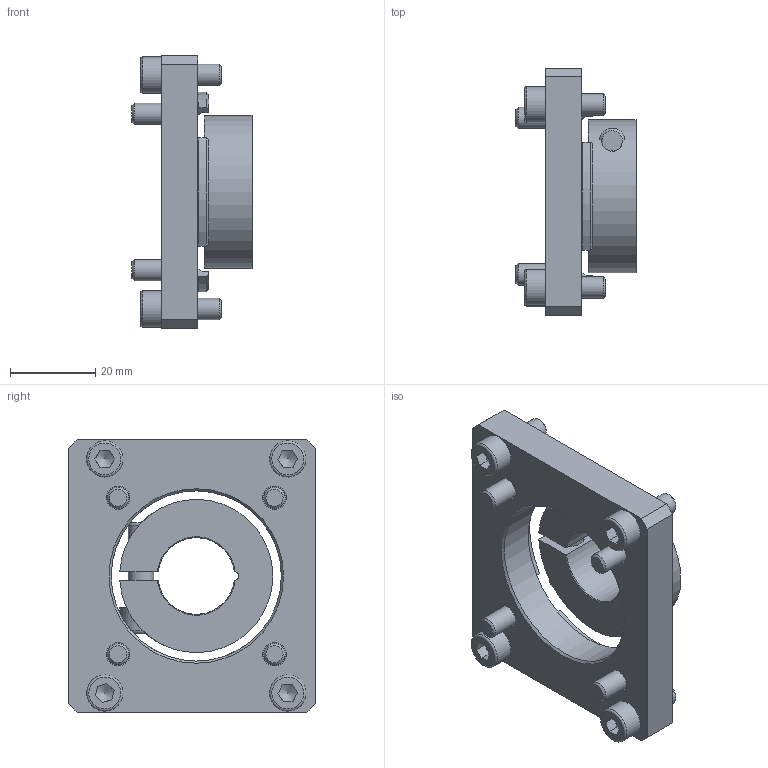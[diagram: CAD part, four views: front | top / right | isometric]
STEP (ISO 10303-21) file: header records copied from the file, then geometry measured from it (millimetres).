
FILE_DESCRIPTION(/* description */ ('Flange set PE3 / PLE060'),/* implementation_level */ '2;1');
FILE_NAME(/* name */ 'D:\InventorWorkspace2017\CAD\Projekte_EDEM\HLR\Zubehörteile\0242.037.stp',/* time_stamp */ '2019-02-13T11:57:35+01:00',/* author */ ('544672'),/* organization */ (''),/* preprocessor_version */ 'ST-DEVELOPER v16.5',/* originating_system */ 'Autodesk Inventor 2017',/* authorisation */ '');
FILE_SCHEMA (('AUTOMOTIVE_DESIGN { 1 0 10303 214 3 1 1 }'));
Length unit declared in the file: millimetre
Products named in the file (6): 0242.037; 0241.013; 0241.012; 135-721034; 130-302345; 130-302315
Assembly tree (11 placements, depth 2):
  0242.037
    0241.013
    0241.012
    135-721034  x4
    130-302345
    130-302315  x4
Bounding box: 28.2 x 58 x 64 mm (x, y, z)
Volume: 30656.4 mm3; surface area: 17820.4 mm2
Topology: 11 solids, 11 shells, 213 faces, 492 edges, 319 vertices
Faces by surface type: plane 114, cylinder 46, cone 35, torus 18
Full cylindrical faces by diameter (mm): 4.917 x1, 5 x8, 5.5 x8, 6 x1, 6.4 x1, 8.5 x8, 10 x5, 40 x1
Entity records: 3649 total; most frequent: CARTESIAN_POINT 693, DIRECTION 609, ORIENTED_EDGE 506, EDGE_CURVE 253, AXIS2_PLACEMENT_3D 244, EDGE_LOOP 191, VERTEX_POINT 186, FACE_OUTER_BOUND 123
